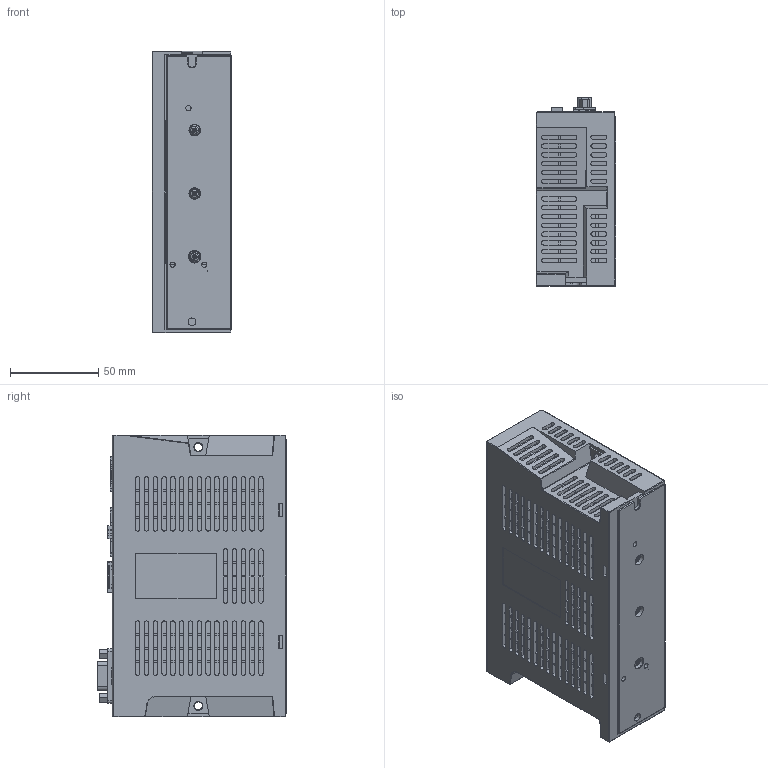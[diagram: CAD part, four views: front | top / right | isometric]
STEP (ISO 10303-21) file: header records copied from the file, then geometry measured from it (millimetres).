
FILE_DESCRIPTION(/* description */ (''),/* implementation_level */ '2;1');
FILE_NAME(/* name */ 'Y:\제품연구개발\4. 개발프로젝트\2. 프로젝트_제품군별\5. STANDARD BLDC\07_외부 발송용 자료\1_홈페이지 자료 2D 3D\3D\XVA_3D_신규\DRIVER\XVD SERIES 3D.stp',/* time_stamp */ '2021-04-30T11:38:21+09:00',/* author */ ('jingon'),/* organization */ (''),/* preprocessor_version */ 'ST-DEVELOPER v18',/* originating_system */ 'Autodesk Inventor 2020',/* authorisation */ '');
FILE_SCHEMA (('AUTOMOTIVE_DESIGN { 1 0 10303 214 3 1 1 }'));
Products named in the file (1): XVD SERIES 3D
Bounding box: 45 x 107.2 x 160 mm (x, y, z)
Volume: 642609 mm3; surface area: 87030.8 mm2
Topology: 6 solids, 739 shells, 3027 faces, 10033 edges, 7916 vertices
Faces by surface type: plane 2172, cylinder 506, bspline 199, cone 110, torus 26, sphere 14
Full cylindrical faces by diameter (mm): 0.6 x8, 1 x15, 2.156 x2, 2.845 x2, 3 x11, 3.3 x2, 3.5 x3, 4.5 x4, 5 x4, 5.6 x3, 6.5 x3, 7 x4, 8 x1, 13 x1, 14 x1
Entity records: 133543 total; most frequent: CARTESIAN_POINT 44837, ORIENTED_EDGE 16316, DIRECTION 16183, EDGE_CURVE 10030, VERTEX_POINT 7916, LINE 7723, VECTOR 7723, AXIS2_PLACEMENT_3D 4230
